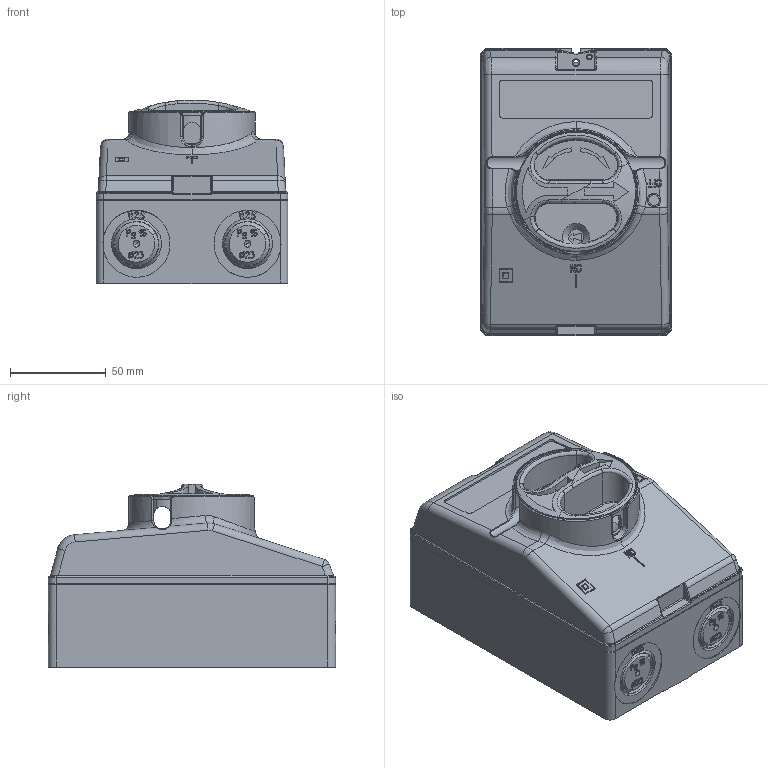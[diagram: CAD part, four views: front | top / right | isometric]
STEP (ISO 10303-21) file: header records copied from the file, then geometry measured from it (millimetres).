
FILE_DESCRIPTION(('CATIA V5 STEP Exchange'),'2;1');
FILE_NAME('\\datfrlgs003.limousin.fr.grpleg.com\it_referentiel\transcad\sortie\fabien.fantini@legrand.fr\110\S01720610.stp','2012-07-17T08:15:32+00:00',('none'),('none'),'CATIA Version 5 Release 19 SP 9 (IN-10)','CATIA V5 STEP AP214','none');
FILE_SCHEMA(('AUTOMOTIVE_DESIGN { 1 0 10303 214 1 1 1 1 }'));
Products named in the file (4): S01720610; S01736000; S01736100; S01737300
Assembly tree (3 placements, depth 2):
  S01720610
    S01736000
    S01736100
    S01737300
Bounding box: 100 x 150 x 96.1 mm (x, y, z)
Volume: 216542.9 mm3; surface area: 189445.3 mm2
Topology: 3 solids, 3 shells, 3552 faces, 9124 edges, 5596 vertices
Faces by surface type: plane 1499, cylinder 1312, torus 284, bspline 239, sphere 132, cone 86
Entity records: 136733 total; most frequent: CARTESIAN_POINT 41785, ORIENTED_EDGE 17954, DIRECTION 12681, EDGE_CURVE 8977, VERTEX_POINT 5596, VECTOR 5138, LINE 5138, AXIS2_PLACEMENT_3D 5111
